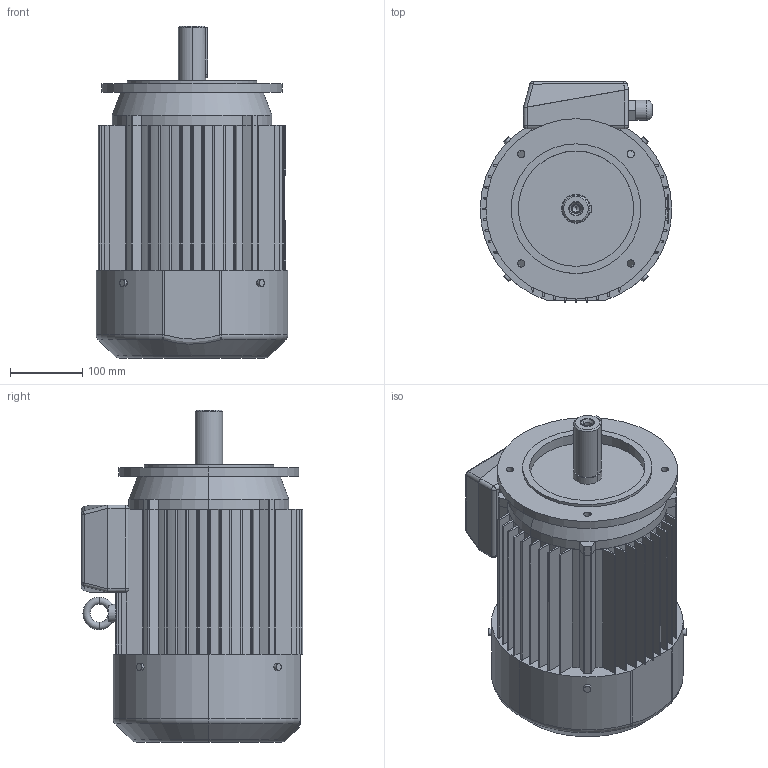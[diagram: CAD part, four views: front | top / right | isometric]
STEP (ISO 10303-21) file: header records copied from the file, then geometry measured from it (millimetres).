
FILE_DESCRIPTION (( 'STEP AP203' ), '1' );
FILE_NAME ('SKg 132S-B14-C1.STEP', '2010-02-09T12:39:02', ( 'INDUKTA' ), ( 'CANTONI MOTOR' ), 'SwSTEP 2.0', 'SolidWorks 2003064', '' );
FILE_SCHEMA (( 'CONFIG_CONTROL_DESIGN' ));
Length unit declared in the file: millimetre
Products named in the file (1): SKg 132S-B14-C1
Bounding box: 266 x 306.99 x 461 mm (x, y, z)
Volume: 18112709.4 mm3; surface area: 944029 mm2
Topology: 12 solids, 12 shells, 497 faces, 1328 edges, 851 vertices
Faces by surface type: plane 231, cylinder 186, bspline 43, cone 14, torus 13, sphere 10
Entity records: 19110 total; most frequent: CARTESIAN_POINT 6717, ORIENTED_EDGE 2632, DIRECTION 2510, EDGE_CURVE 1316, AXIS2_PLACEMENT_3D 860, VERTEX_POINT 851, LINE 790, VECTOR 790
